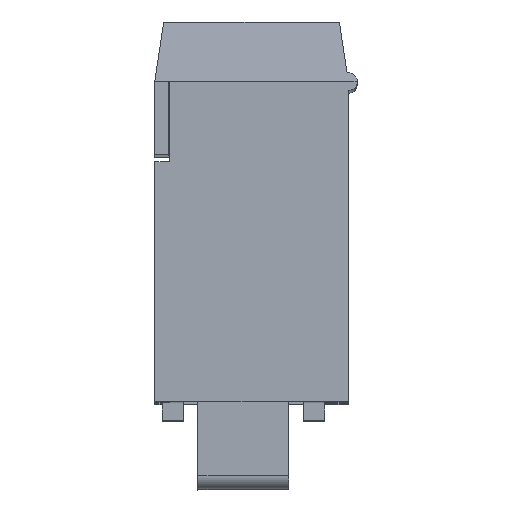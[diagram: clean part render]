
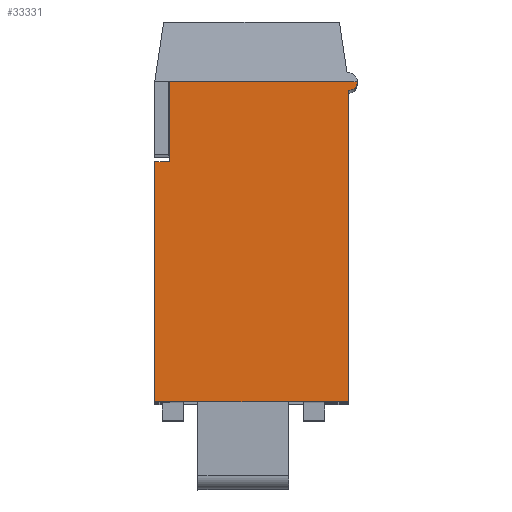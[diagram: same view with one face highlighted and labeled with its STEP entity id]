
A CAD part, top view. The second image highlights one B-rep face of the part: STEP entity #33331.
In plain terms, the highlighted planar face has unit normal (0, 0, 1).
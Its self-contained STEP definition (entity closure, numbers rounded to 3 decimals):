
#583 = DIRECTION ( 'NONE',  ( -1., 0., 0. ) ) ;
#584 = CARTESIAN_POINT ( 'NONE',  ( -22.481, 6.02, 53.5 ) ) ;
#639 = DIRECTION ( 'NONE',  ( 0., -1., 0. ) ) ;
#640 = CARTESIAN_POINT ( 'NONE',  ( -15.981, 16.47, 53.5 ) ) ;
#674 = DIRECTION ( 'NONE',  ( 0., -1., 0. ) ) ;
#675 = DIRECTION ( 'NONE',  ( 0., 0., 1. ) ) ;
#676 = CARTESIAN_POINT ( 'NONE',  ( -15.981, 27.52, 53.5 ) ) ;
#2122 = EDGE_CURVE ( 'NONE', #8681, #8691, #6212, .T. ) ;
#2123 = EDGE_CURVE ( 'NONE', #8387, #8681, #6213, .T. ) ;
#2226 = EDGE_CURVE ( 'NONE', #8528, #8690, #6430, .T. ) ;
#2232 = EDGE_CURVE ( 'NONE', #8691, #8556, #6436, .T. ) ;
#3260 = CARTESIAN_POINT ( 'NONE',  ( -27.981, 16.77, 53.5 ) ) ;
#3300 = DIRECTION ( 'NONE',  ( 0., -1., 0. ) ) ;
#3493 = DIRECTION ( 'NONE',  ( 0., -1., 0. ) ) ;
#3536 = CARTESIAN_POINT ( 'NONE',  ( -28.981, 16.77, 53.5 ) ) ;
#4768 = EDGE_CURVE ( 'NONE', #8747, #8566, #34097, .T. ) ;
#4781 = EDGE_CURVE ( 'NONE', #8747, #8752, #13572, .T. ) ;
#4797 = EDGE_CURVE ( 'NONE', #8752, #8690, #13586, .T. ) ;
#6212 = LINE ( 'NONE', #17413, #9957 ) ;
#6213 = LINE ( 'NONE', #17411, #9951 ) ;
#6430 = LINE ( 'NONE', #3536, #30533 ) ;
#6436 = LINE ( 'NONE', #3260, #30511 ) ;
#8387 = VERTEX_POINT ( 'NONE', #20923 ) ;
#8528 = VERTEX_POINT ( 'NONE', #21064 ) ;
#8556 = VERTEX_POINT ( 'NONE', #21092 ) ;
#8566 = VERTEX_POINT ( 'NONE', #21102 ) ;
#8681 = VERTEX_POINT ( 'NONE', #21215 ) ;
#8690 = VERTEX_POINT ( 'NONE', #21224 ) ;
#8691 = VERTEX_POINT ( 'NONE', #21225 ) ;
#8747 = VERTEX_POINT ( 'NONE', #21281 ) ;
#8752 = VERTEX_POINT ( 'NONE', #21286 ) ;
#9951 = VECTOR ( 'NONE', #17410, 1000. ) ;
#9957 = VECTOR ( 'NONE', #17412, 1000. ) ;
#13031 = EDGE_CURVE ( 'NONE', #8566, #8387, #14301, .T. ) ;
#13572 = LINE ( 'NONE', #640, #34112 ) ;
#13586 = LINE ( 'NONE', #584, #16538 ) ;
#14301 = LINE ( 'NONE', #25258, #19344 ) ;
#16538 = VECTOR ( 'NONE', #583, 1000. ) ;
#17410 = DIRECTION ( 'NONE',  ( 0., -1., 0. ) ) ;
#17411 = CARTESIAN_POINT ( 'NONE',  ( -15.981, 16.77, 53.5 ) ) ;
#17412 = DIRECTION ( 'NONE',  ( -1., 0., 0. ) ) ;
#17413 = CARTESIAN_POINT ( 'NONE',  ( -22.14, 27.495, 53.5 ) ) ;
#19344 = VECTOR ( 'NONE', #25259, 1000. ) ;
#20923 = CARTESIAN_POINT ( 'NONE',  ( -15.981, 27.52, 53.5 ) ) ;
#21064 = CARTESIAN_POINT ( 'NONE',  ( -28.981, 22.12, 53.5 ) ) ;
#21092 = CARTESIAN_POINT ( 'NONE',  ( -27.981, 22.12, 53.5 ) ) ;
#21102 = CARTESIAN_POINT ( 'NONE',  ( -15.381, 27.52, 53.5 ) ) ;
#21215 = CARTESIAN_POINT ( 'NONE',  ( -15.981, 27.495, 53.5 ) ) ;
#21224 = CARTESIAN_POINT ( 'NONE',  ( -28.981, 6.02, 53.5 ) ) ;
#21225 = CARTESIAN_POINT ( 'NONE',  ( -27.981, 27.495, 53.5 ) ) ;
#21281 = CARTESIAN_POINT ( 'NONE',  ( -15.981, 26.92, 53.5 ) ) ;
#21286 = CARTESIAN_POINT ( 'NONE',  ( -15.981, 6.02, 53.5 ) ) ;
#21870 = ORIENTED_EDGE ( 'NONE', *, *, #25415, .T. ) ;
#21970 = EDGE_LOOP ( 'NONE', ( #22068, #22247, #22293, #22082, #21870, #22220, #22343, #22225, #22418 ) ) ;
#22068 = ORIENTED_EDGE ( 'NONE', *, *, #13031, .T. ) ;
#22082 = ORIENTED_EDGE ( 'NONE', *, *, #2232, .T. ) ;
#22220 = ORIENTED_EDGE ( 'NONE', *, *, #2226, .T. ) ;
#22225 = ORIENTED_EDGE ( 'NONE', *, *, #4781, .F. ) ;
#22247 = ORIENTED_EDGE ( 'NONE', *, *, #2123, .T. ) ;
#22293 = ORIENTED_EDGE ( 'NONE', *, *, #2122, .T. ) ;
#22343 = ORIENTED_EDGE ( 'NONE', *, *, #4797, .F. ) ;
#22418 = ORIENTED_EDGE ( 'NONE', *, *, #4768, .T. ) ;
#25258 = CARTESIAN_POINT ( 'NONE',  ( -22.181, 27.52, 53.5 ) ) ;
#25259 = DIRECTION ( 'NONE',  ( -1., 0., 0. ) ) ;
#25415 = EDGE_CURVE ( 'NONE', #8556, #8528, #29936, .T. ) ;
#29489 = CARTESIAN_POINT ( 'NONE',  ( -28.481, 22.12, 53.5 ) ) ;
#29490 = DIRECTION ( 'NONE',  ( -1., 0., 0. ) ) ;
#29936 = LINE ( 'NONE', #29489, #30292 ) ;
#30292 = VECTOR ( 'NONE', #29490, 1000. ) ;
#30511 = VECTOR ( 'NONE', #3300, 1000. ) ;
#30533 = VECTOR ( 'NONE', #3493, 1000. ) ;
#30986 = AXIS2_PLACEMENT_3D ( 'NONE', #32159, #32160, #32161 ) ;
#32158 = PLANE ( 'NONE',  #30986 ) ;
#32159 = CARTESIAN_POINT ( 'NONE',  ( -28.981, 6.02, 53.5 ) ) ;
#32160 = DIRECTION ( 'NONE',  ( 0., 0., 1. ) ) ;
#32161 = DIRECTION ( 'NONE',  ( 1., 0., 0. ) ) ;
#32489 = FACE_OUTER_BOUND ( 'NONE', #21970, .T. ) ;
#33331 = ADVANCED_FACE ( 'NONE', ( #32489 ), #32158, .T. ) ;
#34073 = AXIS2_PLACEMENT_3D ( 'NONE', #676, #675, #674 ) ;
#34097 = CIRCLE ( 'NONE', #34073, 0.6 ) ;
#34112 = VECTOR ( 'NONE', #639, 1000. ) ;
